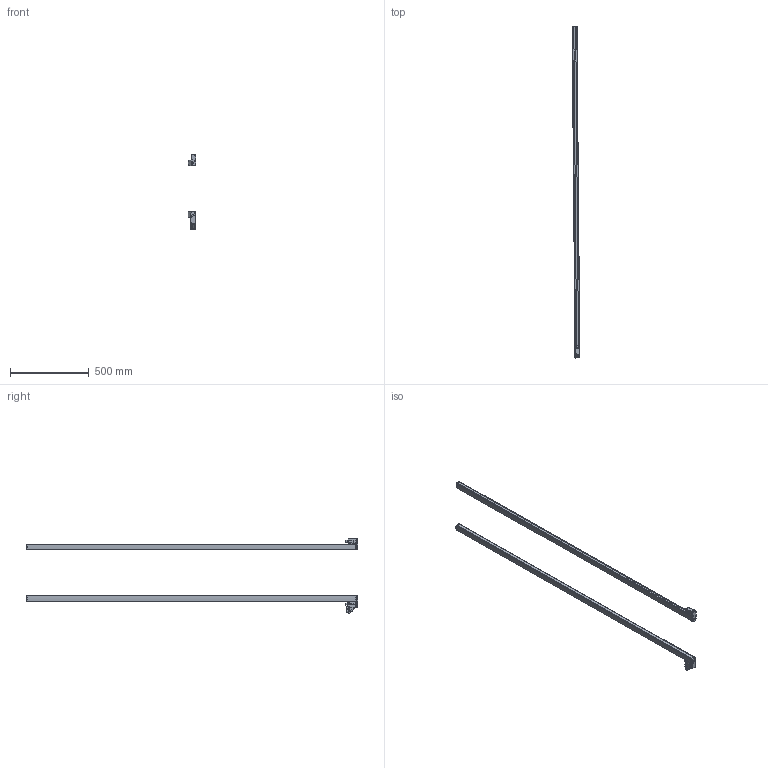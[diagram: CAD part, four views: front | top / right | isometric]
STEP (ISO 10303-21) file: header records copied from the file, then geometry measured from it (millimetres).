
FILE_DESCRIPTION(/* description */ (''),/* implementation_level */ '2;1');
FILE_NAME(/* name */ '3DCAD_CML700i_2080_Profinet_R.stp',/* time_stamp */ '2017-09-28T09:41:02+02:00',/* author */ ('CC2'),/* organization */ ('Leuze electronic'),/* preprocessor_version */ 'ST-DEVELOPER v15',/* originating_system */ 'SIEMENS PLM Software NX 8.5',/* authorisation */ '');
FILE_SCHEMA (('AUTOMOTIVE_DESIGN { 1 0 10303 214 3 1 1 1 }'));
Length unit declared in the file: millimetre
Products named in the file (7): 002502_00.0; 002491_00.0; 005341_00.0; 002486_00.0; 009185_00.0; 002487_00.0; 012316_00.0
Assembly tree (8 placements, depth 2):
  012316_00.0
    002487_00.0  x2
    009185_00.0
    002486_00.0
    005341_00.0  x2
    002491_00.0
    002502_00.0
Bounding box: 49.45 x 2101.29 x 474.04 mm (x, y, z)
Volume: 3842119.7 mm3; surface area: 683108.9 mm2
Topology: 9 solids, 13 shells, 2819 faces, 7422 edges, 4742 vertices
Faces by surface type: plane 1093, cylinder 757, bspline 441, cone 202, extrusion 145, torus 128, sphere 33, revolution 20
Full cylindrical faces by diameter (mm): 0.4 x1, 0.75 x1, 0.85 x1, 1 x18, 2 x2, 2.6 x26, 3.2 x2, 3.5 x12, 4 x2, 4.2 x2, 6.7 x8, 7 x6, 8.6 x2, 9.3 x2, 10.8 x1, 11 x2, 12 x2, 18 x2
Entity records: 114248 total; most frequent: CARTESIAN_POINT 53450, ORIENTED_EDGE 12880, DIRECTION 10993, EDGE_CURVE 6440, VERTEX_POINT 4208, AXIS2_PLACEMENT_3D 3961, VECTOR 3051, EDGE_LOOP 2942
